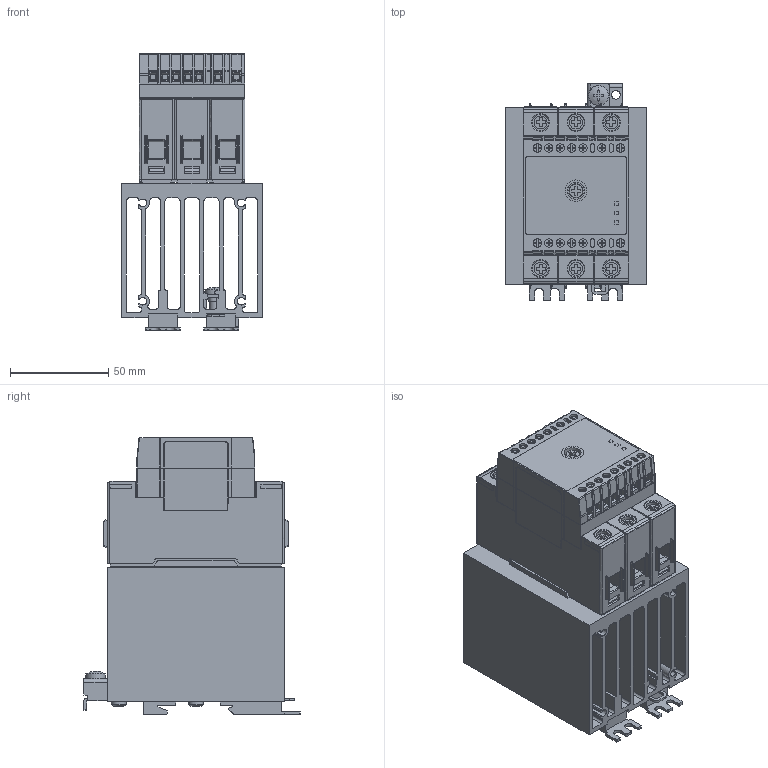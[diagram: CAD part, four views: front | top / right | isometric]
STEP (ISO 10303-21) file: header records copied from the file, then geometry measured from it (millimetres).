
FILE_DESCRIPTION((''),'2;1');
FILE_NAME('CGI0995-02.stp','2014-07-16T09:18:21',(''),(''),'Mechanical Desktop 2009','Mechanical Desktop 2009',', , ');
FILE_SCHEMA(('CONFIG_CONTROL_DESIGN'));
Length unit declared in the file: millimetre
Products named in the file (2): Product; CGI0995-02
Assembly tree (1 placements, depth 2):
  Product
    CGI0995-02
Bounding box: 71.3 x 110 x 140.7 mm (x, y, z)
Volume: 444772.3 mm3; surface area: 152766.4 mm2
Topology: 4 solids, 4 shells, 2821 faces, 7620 edges, 4902 vertices
Faces by surface type: bspline 1259, plane 973, cylinder 513, sphere 30, cone 26, torus 20
Entity records: 110194 total; most frequent: CARTESIAN_POINT 42584, ORIENTED_EDGE 15160, DIRECTION 12455, EDGE_CURVE 7580, VERTEX_POINT 4904, VECTOR 4861, LINE 4861, AXIS2_PLACEMENT_3D 3797
